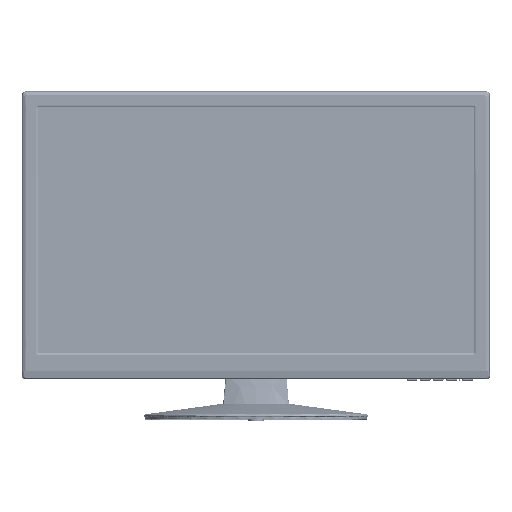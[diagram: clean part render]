
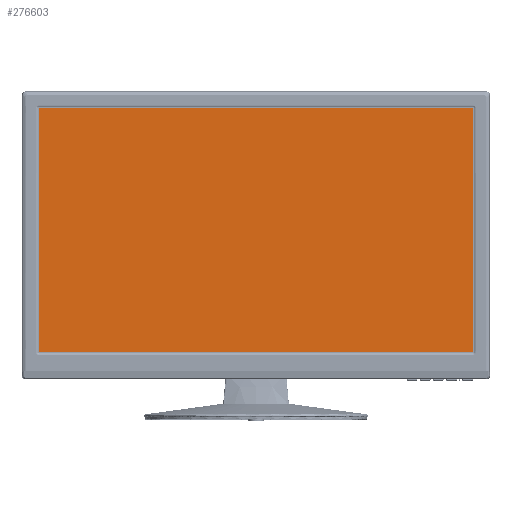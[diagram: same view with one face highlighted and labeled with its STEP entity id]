
A CAD part, top view. The second image highlights one B-rep face of the part: STEP entity #276603.
In plain terms, the highlighted planar face has unit normal (0, 0, 1).
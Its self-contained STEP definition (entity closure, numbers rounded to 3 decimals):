
#27759 = FACE_OUTER_BOUND ( 'NONE', #317216, .T. ) ;
#50124 = VERTEX_POINT ( 'NONE', #575179 ) ;
#53728 = DIRECTION ( 'NONE',  ( 0., 0., 1. ) ) ;
#55134 = DIRECTION ( 'NONE',  ( -1., 0., 0. ) ) ;
#134297 = VECTOR ( 'NONE', #271683, 1000. ) ;
#139659 = AXIS2_PLACEMENT_3D ( 'NONE', #781386, #53728, #478793 ) ;
#212269 = VECTOR ( 'NONE', #367265, 1000. ) ;
#260318 = EDGE_CURVE ( 'NONE', #787238, #299191, #406806, .T. ) ;
#271683 = DIRECTION ( 'NONE',  ( 0., -1., 0. ) ) ;
#276603 = ADVANCED_FACE ( 'NONE', ( #27759 ), #656768, .T. ) ;
#295992 = LINE ( 'NONE', #635614, #134297 ) ;
#299191 = VERTEX_POINT ( 'NONE', #573318 ) ;
#317216 = EDGE_LOOP ( 'NONE', ( #400982, #641346, #348134, #458751 ) ) ;
#348134 = ORIENTED_EDGE ( 'NONE', *, *, #260318, .T. ) ;
#358115 = CARTESIAN_POINT ( 'NONE',  ( 3.58, 338.98, 1.16 ) ) ;
#367104 = CARTESIAN_POINT ( 'NONE',  ( 3.58, 338.98, 1.16 ) ) ;
#367265 = DIRECTION ( 'NONE',  ( 1., 0., 0. ) ) ;
#400982 = ORIENTED_EDGE ( 'NONE', *, *, #708500, .T. ) ;
#406806 = LINE ( 'NONE', #447585, #425877 ) ;
#425877 = VECTOR ( 'NONE', #569655, 1000. ) ;
#447585 = CARTESIAN_POINT ( 'NONE',  ( 600.32, 338.98, 1.16 ) ) ;
#449361 = CARTESIAN_POINT ( 'NONE',  ( 600.32, 3.32, 1.16 ) ) ;
#458751 = ORIENTED_EDGE ( 'NONE', *, *, #581777, .T. ) ;
#478793 = DIRECTION ( 'NONE',  ( 1., 0., 0. ) ) ;
#569655 = DIRECTION ( 'NONE',  ( 0., 1., 0. ) ) ;
#573318 = CARTESIAN_POINT ( 'NONE',  ( 600.32, 338.98, 1.16 ) ) ;
#575179 = CARTESIAN_POINT ( 'NONE',  ( 3.58, 3.32, 1.16 ) ) ;
#581777 = EDGE_CURVE ( 'NONE', #299191, #619772, #691787, .T. ) ;
#619772 = VERTEX_POINT ( 'NONE', #367104 ) ;
#635614 = CARTESIAN_POINT ( 'NONE',  ( 3.58, 338.98, 1.16 ) ) ;
#641346 = ORIENTED_EDGE ( 'NONE', *, *, #776364, .T. ) ;
#656768 = PLANE ( 'NONE',  #139659 ) ;
#670053 = CARTESIAN_POINT ( 'NONE',  ( 3.58, 3.32, 1.16 ) ) ;
#672827 = VECTOR ( 'NONE', #55134, 1000. ) ;
#678115 = LINE ( 'NONE', #670053, #212269 ) ;
#691787 = LINE ( 'NONE', #358115, #672827 ) ;
#708500 = EDGE_CURVE ( 'NONE', #619772, #50124, #295992, .T. ) ;
#776364 = EDGE_CURVE ( 'NONE', #50124, #787238, #678115, .T. ) ;
#781386 = CARTESIAN_POINT ( 'NONE',  ( 0., 0., 1.16 ) ) ;
#787238 = VERTEX_POINT ( 'NONE', #449361 ) ;
